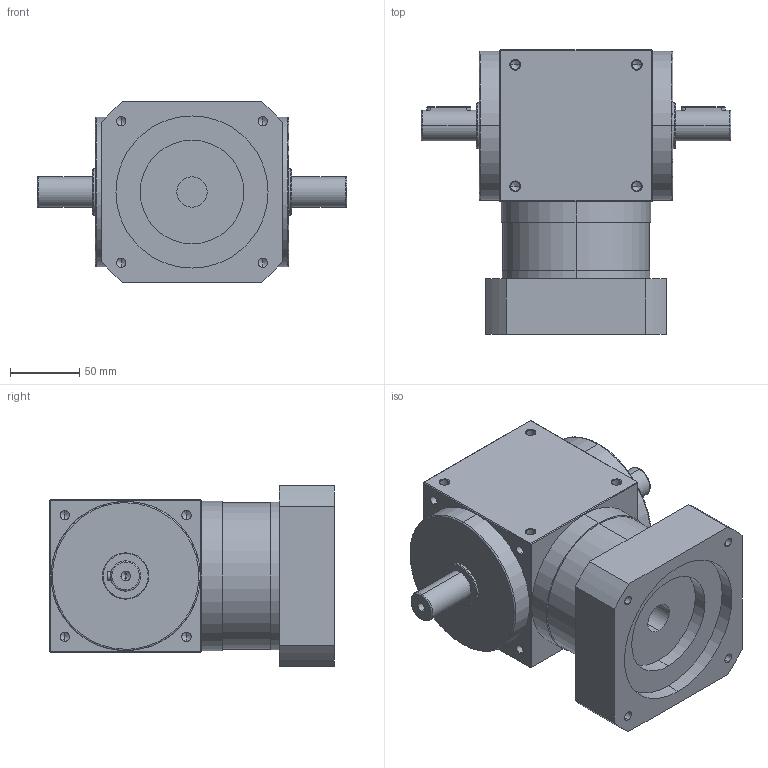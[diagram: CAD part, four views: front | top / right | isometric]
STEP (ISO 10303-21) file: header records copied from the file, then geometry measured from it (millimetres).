
FILE_DESCRIPTION (( 'STEP AP214' ), '1' );
FILE_NAME ('AT110-FL1-001 22-110-145-M8.STEP', '2020-11-10T03:17:24', ( '微软用户' ), ( '微软中国' ), 'SwSTEP 2.0', 'SolidWorks 2014', '' );
FILE_SCHEMA (( 'AUTOMOTIVE_DESIGN' ));
Length unit declared in the file: millimetre
Products named in the file (2): AT110-FL1-001 22-110-145-M8
Bounding box: 224 x 206 x 130.62 mm (x, y, z)
Volume: 2635046.4 mm3; surface area: 160494.7 mm2
Topology: 2 solids, 2 shells, 254 faces, 644 edges, 358 vertices
Faces by surface type: cylinder 124, cone 68, plane 54, bspline 8
Entity records: 10027 total; most frequent: CARTESIAN_POINT 1810, ORIENTED_EDGE 1184, DIRECTION 1160, EDGE_CURVE 592, AXIS2_PLACEMENT_3D 444, VERTEX_POINT 358, EDGE_LOOP 294, VECTOR 272
